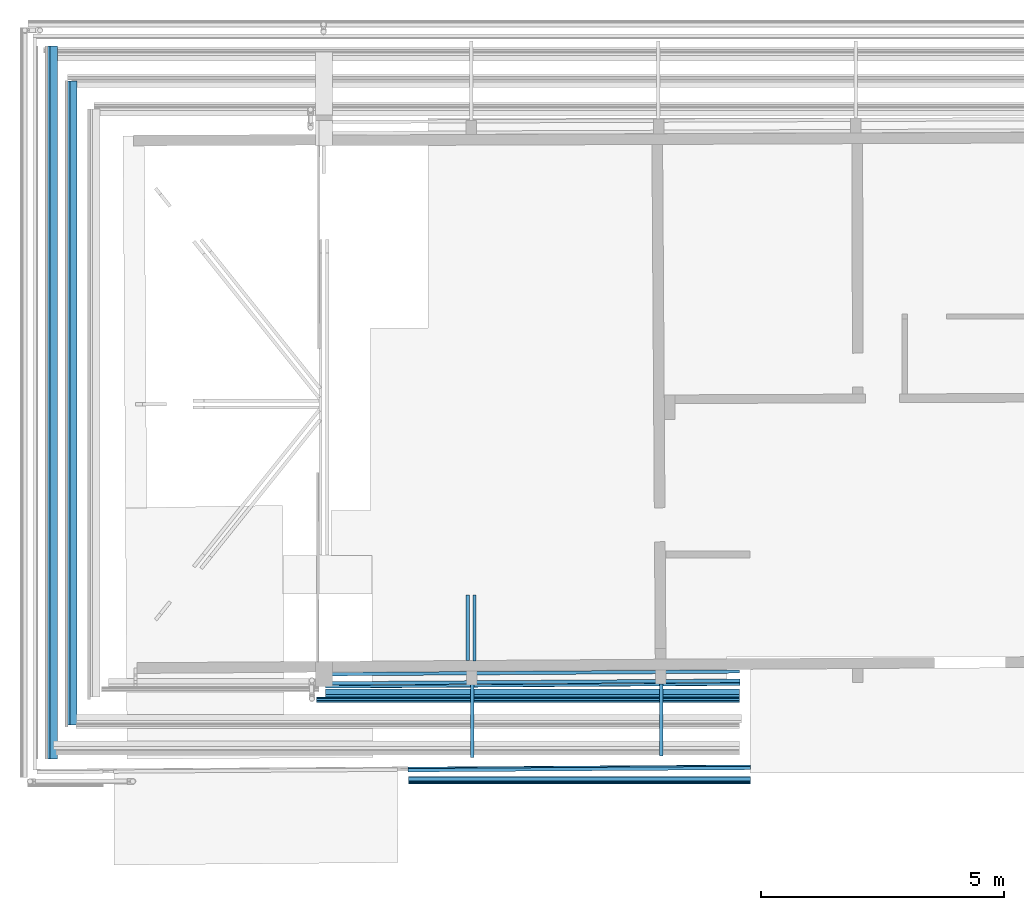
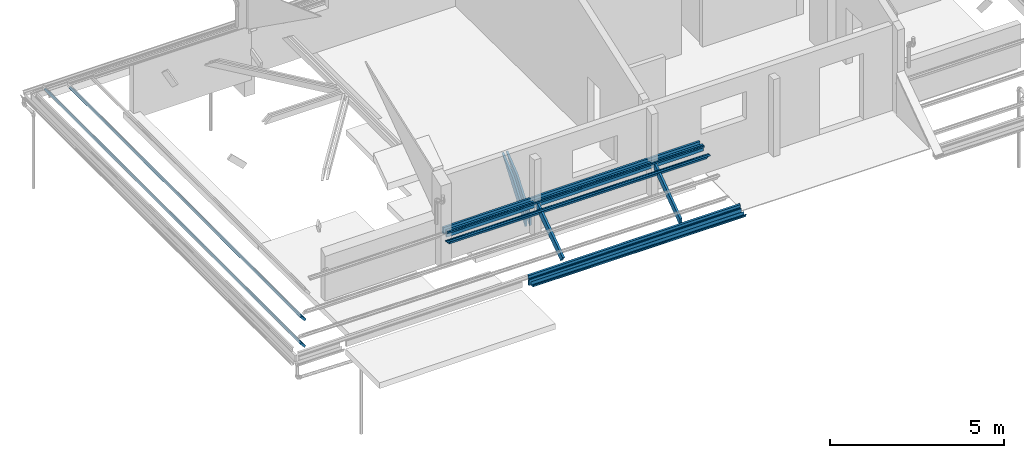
# One storey, part 2 of 15: 14 beams.
"""IFC2X3 building model written with IfcOpenShell, lengths in centimetres."""

from ifc_helpers import new_model, entity, si_unit, converted_unit, direction, frame, frame_2d, origin, origin_2d_with_axis, place, context, subcontext, project, spatial, polyline, circle_curve, parameter, trimmed, segment, composite_curve, rectangle, outline, extrude, clip, halfspace, material, type_object, element, save


model = new_model("IFC2X3")

# Units and contexts
model_context = context("Model", 3, precision=0.001, world=frame((0.0, 0.0, 13090.0)), true_north=direction((6.123233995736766e-17, 1.0)))
body_context = subcontext(model_context, "Body", "Model", "MODEL_VIEW")
ifc_project = project(units=[si_unit("LENGTHUNIT", "METRE", prefix="CENTI"), si_unit("AREAUNIT", "SQUARE_METRE"), si_unit("VOLUMEUNIT", "CUBIC_METRE"), converted_unit("PLANEANGLEUNIT", "DEGREE", entity("IfcPlaneAngleMeasure", 0.017453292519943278), si_unit("PLANEANGLEUNIT", "RADIAN"), dimensions=[0, 0, 0, 0, 0, 0, 0])], contexts=[model_context])

# Site, building, storey
site_placement = place(None, origin())
site = spatial("IfcSite", under=ifc_project, at=site_placement, Name="Default", CompositionType="ELEMENT")
building_placement = place(site_placement, origin())
building = spatial("IfcBuilding", under=site, at=building_placement, Name="e 39 logements et 22 maisons relais", CompositionType="ELEMENT")
storey_placement = place(building_placement, frame((0.0, 0.0, 340.0)))
storey = spatial("IfcBuildingStorey", under=building, at=storey_placement, Name="R+1", CompositionType="ELEMENT", Elevation=339.99999999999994)

# Beams
ifc_material_1 = material(Name="Bois - Bois de construction de dimensions courantes")
beam_type_1 = type_object("IfcBeamType", Name="Poutre - Bois de construction de dimensions courantes:70 220", PredefinedType="BEAM")
beam_1_placement = place(storey_placement, frame((-1479.1192370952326, 514.0076677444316, 22.61963022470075), z_axis=(0.0, 0.0, 1.0), x_axis=(0.0, -1.0, 0.0)))
element("IfcBeam", 1, at=beam_1_placement, inside=storey, type_object=beam_type_1, material=ifc_material_1, Name="Poutre - Bois de construction de dimensions courantes:70 220", ObjectType="Poutre - Bois de construction de dimensions courantes:70 220", context=body_context, shape_type="SweptSolid", body=[
    extrude(rectangle(XDim=21.99999999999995, YDim=7.00000000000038, at=frame_2d((-2.042810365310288e-14, 1.8207657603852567e-14), x_axis=(1.0, 0.0))), frame((-201.23187707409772, 7.360436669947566, -8.174593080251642), z_axis=(1.0, 0.0, 0.0), x_axis=(0.0, -0.6691306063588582, 0.7431448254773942)), (0.0, 0.0, 1.0), 1469.0764847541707),
])
beam_2_placement = place(storey_placement, frame((-1438.4556424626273, 514.0076677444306, 59.056637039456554), z_axis=(0.0, 0.0, 1.0), x_axis=(0.0, -1.0, 0.0)))
element("IfcBeam", 2, at=beam_2_placement, inside=storey, type_object=beam_type_1, material=ifc_material_1, Name="Poutre - Bois de construction de dimensions courantes:70 220", ObjectType="Poutre - Bois de construction de dimensions courantes:70 220", context=body_context, shape_type="SweptSolid", body=[
    extrude(rectangle(XDim=21.999999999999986, YDim=7.000000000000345, at=origin_2d_with_axis()), frame((-128.41320221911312, 7.360436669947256, -8.174593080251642), z_axis=(1.0, 0.0, 0.0), x_axis=(0.0, -0.669130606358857, 0.7431448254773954)), (0.0, 0.0, 1.0), 1326.7871200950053),
])
beam_3_placement = place(storey_placement, frame((-607.2132875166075, -811.2523805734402, 57.720199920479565), z_axis=(0.0, -0.5726590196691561, 0.8197936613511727), x_axis=(0.0, 0.8197936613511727, 0.5726590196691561)))
element("IfcBeam", 3, at=beam_3_placement, inside=storey, type_object=beam_type_1, material=ifc_material_1, Name="Poutre - Bois de construction de dimensions courantes:70 220", ObjectType="Poutre - Bois de construction de dimensions courantes:70 220", context=body_context, shape_type="SweptSolid", body=[
    extrude(rectangle(XDim=21.999999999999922, YDim=7.000000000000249, at=frame_2d((3.197442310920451e-14, 1.6253665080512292e-13), x_axis=(1.0, 0.0))), frame((25.636345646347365, 0.0, -80.0), z_axis=(1.0, 0.0, 0.0), x_axis=(0.0, 0.0, -1.0)), (0.0, 0.0, 1.0), 183.18659665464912),
])
beam_4_placement = place(storey_placement, frame((-590.1792504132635, -577.2831181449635, 124.00368259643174), z_axis=(0.0, 0.0, 1.0), x_axis=(-0.9999784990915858, -0.006557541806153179, 0.0)))
element("IfcBeam", 4, at=beam_4_placement, inside=storey, type_object=beam_type_1, material=ifc_material_1, Name="Poutre - Bois de construction de dimensions courantes:70 220", ObjectType="Poutre - Bois de construction de dimensions courantes:70 220", context=body_context, shape_type="SweptSolid", body=[
    extrude(rectangle(XDim=22.000000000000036, YDim=7.000000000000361, at=origin_2d_with_axis()), frame((-534.2301434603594, 0.0, -11.0), z_axis=(1.0, 0.0, 0.0), x_axis=(0.0, 0.0, -1.0)), (0.0, 0.0, 1.0), 853.0410065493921),
])
beam_5_placement = place(storey_placement, frame((-590.0554164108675, -596.1669230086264, 124.00368259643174), z_axis=(0.0, 0.0, 1.0), x_axis=(-0.9999784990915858, -0.006557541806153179, 0.0)))
element("IfcBeam", 5, at=beam_5_placement, inside=storey, type_object=beam_type_1, material=ifc_material_1, Name="Poutre - Bois de construction de dimensions courantes:70 220", ObjectType="Poutre - Bois de construction de dimensions courantes:70 220", context=body_context, shape_type="SweptSolid", body=[
    extrude(rectangle(XDim=22.000000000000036, YDim=7.000000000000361, at=origin_2d_with_axis()), frame((-534.2301434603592, 0.0, -11.0), z_axis=(1.0, 0.0, 0.0), x_axis=(0.0, 0.0, -1.0)), (0.0, 0.0, 1.0), 853.0410065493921),
])
beam_type_2 = type_object("IfcBeamType", Name="Poutre - Bois de construction de dimensions courantes:70 200", PredefinedType="BEAM")
beam_6_placement = place(storey_placement, frame((-602.2819705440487, -430.44318260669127, 199.032843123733), z_axis=(1.0, 0.0, 0.0), x_axis=(0.0, -0.5980962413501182, -0.8014242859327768)))
element("IfcBeam", 6, at=beam_6_placement, inside=storey, type_object=beam_type_2, material=ifc_material_1, Name="Poutre - Bois de construction de dimensions courantes:70 200", ObjectType="Poutre - Bois de construction de dimensions courantes:70 200", context=body_context, shape_type="Clipping", body=[
    clip(clip(extrude(rectangle(XDim=20.000000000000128, YDim=7.000000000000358, at=frame_2d((5.417888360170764e-14, -2.220446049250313e-14), x_axis=(0.0, 1.0))), frame((3.022152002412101, 10.0, 0.0), z_axis=(1.0, 0.0, 0.0), x_axis=(0.0, 0.0, -1.0)), (0.0, 0.0, 1.0), 224.0830836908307), halfspace(frame((262.11905182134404, 45.03969575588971, 313.8906856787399), z_axis=(0.60535828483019, -0.7959531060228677, 0.0), x_axis=(0.0, 0.0, -1.0)), False)), halfspace(frame((-147.81267289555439, 61.16847534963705, -313.8906856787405), z_axis=(-0.26330614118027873, -0.9647123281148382, 0.0), x_axis=(0.0, 0.0, 1.0)), False)),
])
beam_7_placement = place(storey_placement, frame((-616.2819705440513, -430.44318260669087, 199.03284312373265), z_axis=(1.0, 0.0, 0.0), x_axis=(0.0, -0.5980962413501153, -0.8014242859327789)))
element("IfcBeam", 7, at=beam_7_placement, inside=storey, type_object=beam_type_2, material=ifc_material_1, Name="Poutre - Bois de construction de dimensions courantes:70 200", ObjectType="Poutre - Bois de construction de dimensions courantes:70 200", context=body_context, shape_type="Clipping", body=[
    clip(clip(extrude(rectangle(XDim=20.000000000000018, YDim=7.00000000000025, at=frame_2d((-5.417888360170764e-14, 3.197442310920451e-14), x_axis=(0.0, 1.0))), frame((3.0221520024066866, 10.0, 0.0), z_axis=(1.0, 0.0, 0.0), x_axis=(0.0, 0.0, -1.0)), (0.0, 0.0, 1.0), 222.7859777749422), halfspace(frame((260.6719459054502, 45.039695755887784, 312.59068567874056), z_axis=(0.6053582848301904, -0.7959531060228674, 0.0), x_axis=(0.0, 0.0, -1.0)), False)), halfspace(frame((-146.97542323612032, 60.939958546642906, -312.5906856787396), z_axis=(-0.26330614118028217, -0.9647123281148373, 0.0), x_axis=(0.0, 0.0, 1.0)), False)),
])
beam_8_placement = place(storey_placement, frame((-590.2069629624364, -624.0584799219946, 104.31518770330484), z_axis=(0.0, 0.0, 1.0), x_axis=(-1.0, 0.0, 0.0)))
element("IfcBeam", 8, at=beam_8_placement, inside=storey, type_object=beam_type_2, material=ifc_material_1, Name="Poutre - Bois de construction de dimensions courantes:70 200", ObjectType="Poutre - Bois de construction de dimensions courantes:70 200", context=body_context, shape_type="SweptSolid", body=[
    extrude(rectangle(XDim=20.000000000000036, YDim=7.000000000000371, at=frame_2d((3.1308289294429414e-14, -4.440892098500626e-14), x_axis=(0.0, 1.0))), frame((-534.2301434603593, -5.807029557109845, -8.141155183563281), z_axis=(1.0, 0.0, 0.0), x_axis=(0.0, -0.8141155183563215, 0.5807029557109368)), (0.0, 0.0, 1.0), 853.041006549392),
])
beam_9_placement = place(storey_placement, frame((-570.8969736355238, -776.1639952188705, 14.0166710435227), z_axis=(0.0, 0.0, 1.0), x_axis=(-0.9999784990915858, -0.006557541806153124, 0.0)))
element("IfcBeam", 9, at=beam_9_placement, inside=storey, type_object=beam_type_2, material=ifc_material_1, Name="Poutre - Bois de construction de dimensions courantes:70 200", ObjectType="Poutre - Bois de construction de dimensions courantes:70 200", context=body_context, shape_type="SweptSolid", body=[
    extrude(rectangle(XDim=20.0, YDim=7.000000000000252, at=frame_2d((0.0, 5.417888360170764e-14), x_axis=(1.0, 0.0))), frame((-536.6670283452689, 0.0, -22.0), z_axis=(1.0, 0.0, 0.0), x_axis=(0.0, 0.0, -1.0)), (0.0, 0.0, 1.0), 705.0279453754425),
])
beam_10_placement = place(storey_placement, frame((-218.01328751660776, -810.3592689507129, 54.38807245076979), z_axis=(0.0, -0.5868791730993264, 0.8096745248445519), x_axis=(0.0, 0.8096745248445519, 0.5868791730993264)))
element("IfcBeam", 10, at=beam_10_placement, inside=storey, type_object=beam_type_2, material=ifc_material_1, Name="Poutre - Bois de construction de dimensions courantes:70 200", ObjectType="Poutre - Bois de construction de dimensions courantes:70 200", context=body_context, shape_type="Clipping", body=[
    clip(clip(extrude(rectangle(XDim=20.00000000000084, YDim=7.0000000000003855, at=frame_2d((-1.9539925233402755e-13, -1.354472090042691e-14), x_axis=(1.0, 0.0))), frame((12.202538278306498, 0.0, -79.0), z_axis=(1.0, 0.0, 0.0), x_axis=(0.0, 0.0, -1.0)), (0.0, 0.0, 1.0), 197.89190449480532), halfspace(frame((33.29267112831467, 211.41323505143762, -59.90347710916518), z_axis=(-0.8096745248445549, 0.0, 0.5868791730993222), x_axis=(0.0, -1.0, 0.0)), False)), halfspace(frame((186.90337999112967, 211.4132350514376, -102.19931340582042), z_axis=(0.8197936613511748, 0.0, -0.572659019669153), x_axis=(0.0, -1.0, 0.0)), False)),
])
ifc_material_2 = material(Name="neuf")
beam_type_3 = type_object("IfcBeamType", Name="gouttiere ALU G400:gouttiere ALU G400", PredefinedType="BEAM")
beam_11_placement = place(storey_placement, frame((-570.930260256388, -790.1544487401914, 31.582453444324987), z_axis=(0.0, 0.0, 1.0), x_axis=(-1.0, 0.0, 0.0)))
element("IfcBeam", 11, at=beam_11_placement, inside=storey, type_object=beam_type_3, material=ifc_material_2, Name="gouttiere ALU G400:gouttiere ALU G400", ObjectType="gouttiere ALU G400:gouttiere ALU G400", context=body_context, shape_type="SweptSolid", body=[
    extrude(outline(composite_curve([segment(polyline([(-6.028675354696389, -10.418144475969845), (4.915125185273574, -10.418144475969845)]), True, "CONTINUOUS"), segment(trimmed(circle_curve(frame_2d((4.482502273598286, -7.967211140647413), x_axis=(0.17382635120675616, -0.9847763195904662)), 2.4888223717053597), [parameter(0.0)], [parameter(79.98963375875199)], True, "PARAMETER"), True, "CONTINUOUS"), segment(polyline([(6.971324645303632, -7.967211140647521), (6.971324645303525, -1.4672111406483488)]), True, "CONTINUOUS"), segment(trimmed(circle_curve(frame_2d((5.604531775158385, -1.4672111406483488), x_axis=(1.0, 0.0)), 1.366792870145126), [parameter(0.0)], [parameter(80.76228289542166)], True, "PARAMETER"), True, "CONTINUOUS"), segment(polyline([(5.8239443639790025, -0.11814447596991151), (4.738394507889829, -0.11814447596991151)]), True, "CONTINUOUS"), segment(trimmed(circle_curve(frame_2d((4.7383945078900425, 0.5488704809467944), x_axis=(0.0, -1.0)), 0.6670149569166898), [parameter(270.00000000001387)], [parameter(0.0)], True, "PARAMETER"), False, "CONTINUOUS"), segment(trimmed(circle_curve(frame_2d((2.6511667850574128, 0.5488704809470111), x_axis=(1.0, 0.0)), 1.4202127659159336), [parameter(0.0)], [parameter(75.70274320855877)], True, "PARAMETER"), True, "CONTINUOUS"), segment(polyline([(3.001892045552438, 1.925095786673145), (-3.0280800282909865, 2.868739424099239)]), True, "CONTINUOUS"), segment(trimmed(circle_curve(frame_2d((-2.8287143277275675, 3.6330360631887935), x_axis=(-0.2524028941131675, -0.9676222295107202)), 0.7898708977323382), [parameter(284.61974875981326)], [parameter(0.0)], True, "PARAMETER"), False, "CONTINUOUS"), segment(polyline([(-3.61858522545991, 3.633036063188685), (-3.61858522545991, 4.3921591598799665)]), True, "CONTINUOUS"), segment(trimmed(circle_curve(frame_2d((-4.410064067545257, 4.392159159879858), x_axis=(1.0, 0.0)), 0.7914788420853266), [parameter(0.0)], [parameter(89.9999999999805)], True, "PARAMETER"), True, "CONTINUOUS"), segment(polyline([(-4.410064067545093, 5.1836380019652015), (-4.596964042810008, 5.1836380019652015)]), True, "CONTINUOUS"), segment(trimmed(circle_curve(frame_2d((-4.596964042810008, 4.455817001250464), x_axis=(0.0, 1.0)), 0.7278210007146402), [parameter(0.0)], [parameter(90.00000000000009)], True, "PARAMETER"), True, "CONTINUOUS"), segment(polyline([(-5.324785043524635, 4.455817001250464), (-5.509735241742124, 2.716322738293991)]), True, "CONTINUOUS"), segment(polyline([(-5.509735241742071, 2.7163227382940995), (-5.308633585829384, 2.7163227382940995)]), True, "CONTINUOUS"), segment(polyline([(-5.308633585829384, 2.7163227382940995), (-5.126213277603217, 4.451936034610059)]), True, "CONTINUOUS"), segment(trimmed(circle_curve(frame_2d((-4.59629378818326, 4.451936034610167), x_axis=(-1.0, 0.0)), 0.5299194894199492), [parameter(269.99999999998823)], [parameter(0.0)], True, "PARAMETER"), False, "CONTINUOUS"), segment(polyline([(-4.59629378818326, 4.98185552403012), (-4.409626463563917, 4.98185552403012)]), True, "CONTINUOUS"), segment(trimmed(circle_curve(frame_2d((-4.409626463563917, 4.391273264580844), x_axis=(0.0, 1.0)), 0.5905822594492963), [parameter(269.9999999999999)], [parameter(0.0)], True, "PARAMETER"), False, "CONTINUOUS"), segment(polyline([(-3.8190442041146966, 4.391273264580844), (-3.8190442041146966, 3.6331166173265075)]), True, "CONTINUOUS"), segment(trimmed(circle_curve(frame_2d((-2.828956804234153, 3.6331166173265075), x_axis=(-1.0, 0.0)), 0.99008739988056), [parameter(0.0)], [parameter(75.99999999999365)], True, "PARAMETER"), True, "CONTINUOUS"), segment(polyline([(-3.0684806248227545, 2.6724390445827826), (2.96129470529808, 1.7290144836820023)]), True, "CONTINUOUS"), segment(trimmed(circle_curve(frame_2d((2.6511667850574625, 0.5488704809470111), x_axis=(0.25415888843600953, 0.9671624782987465)), 1.2202127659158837), [parameter(284.72375106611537)], [parameter(0.0)], True, "PARAMETER"), False, "CONTINUOUS"), segment(trimmed(circle_curve(frame_2d((4.738394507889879, 0.548870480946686), x_axis=(-1.0, 0.0)), 0.8670149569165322), [parameter(0.0)], [parameter(90.00000000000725)], True, "PARAMETER"), True, "CONTINUOUS"), segment(polyline([(4.738394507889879, -0.3181444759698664), (5.807143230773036, -0.3181444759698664)]), True, "CONTINUOUS"), segment(trimmed(circle_curve(frame_2d((5.604531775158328, -1.4672111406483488), x_axis=(0.17364817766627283, 0.9848077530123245)), 1.166792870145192), [parameter(279.9999999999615)], [parameter(0.0)], True, "PARAMETER"), False, "CONTINUOUS"), segment(polyline([(6.771324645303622, -1.4672111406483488), (6.771324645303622, -7.967211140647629)]), True, "CONTINUOUS"), segment(trimmed(circle_curve(frame_2d((4.482502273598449, -7.967211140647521), x_axis=(1.0, 0.0)), 2.2888223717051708), [parameter(280.43973077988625)], [parameter(0.0)], True, "PARAMETER"), False, "CONTINUOUS"), segment(polyline([(4.897239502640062, -10.21814447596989), (-6.028675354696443, -10.21814447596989)]), True, "CONTINUOUS"), segment(polyline([(-6.028675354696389, -10.218144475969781), (-6.028675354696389, -10.418144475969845)]), True, "CONTINUOUS")], self_intersect=False)), frame((-537.1221576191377, 10.218144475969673, -37.028675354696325), z_axis=(1.0, 0.0, 0.0), x_axis=(0.0, 0.0, -1.0)), (0.0, 0.0, 1.0), 704.1738679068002),
])
beam_type_4 = type_object("IfcBeamType", Name="panne z:panne z", PredefinedType="BEAM")
beam_12_placement = place(storey_placement, frame((-570.9302602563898, -633.0811791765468, 113.51652560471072), z_axis=(0.0, 0.0, 1.0), x_axis=(-1.0, 0.0, 0.0)))
element("IfcBeam", 12, at=beam_12_placement, inside=storey, type_object=beam_type_4, material=ifc_material_2, Name="panne z:panne z", ObjectType="panne z:panne z", context=body_context, shape_type="SweptSolid", body=[
    extrude(outline(composite_curve([segment(polyline([(-4.599999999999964, -3.0), (-0.29999999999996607, -3.0)]), True, "CONTINUOUS"), segment(trimmed(circle_curve(frame_2d((-0.29999999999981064, -2.600000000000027), x_axis=(0.0, -1.0)), 0.399999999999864), [parameter(0.0)], [parameter(90.00000000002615)], True, "PARAMETER"), True, "CONTINUOUS"), segment(polyline([(0.10000000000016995, -2.599999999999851), (0.10000000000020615, 2.6000000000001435)]), True, "CONTINUOUS"), segment(trimmed(circle_curve(frame_2d((0.3000000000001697, 2.6000000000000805), x_axis=(-1.0, 0.0)), 0.20000000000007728), [parameter(270.00000000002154)], [parameter(0.0)], True, "PARAMETER"), False, "CONTINUOUS"), segment(polyline([(0.30000000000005, 2.8000000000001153), (4.6000000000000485, 2.8000000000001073)]), True, "CONTINUOUS"), segment(trimmed(circle_curve(frame_2d((4.600000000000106, 2.600000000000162), x_axis=(0.0, 1.0)), 0.20000000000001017), [parameter(270.00000000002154)], [parameter(0.0)], True, "PARAMETER"), False, "CONTINUOUS"), segment(polyline([(4.800000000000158, 2.600000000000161), (4.800000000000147, 1.0)]), True, "CONTINUOUS"), segment(polyline([(4.800000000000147, 1.0), (5.0, 1.0)]), True, "CONTINUOUS"), segment(polyline([(5.0, 1.0), (5.0, 2.6000000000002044)]), True, "CONTINUOUS"), segment(trimmed(circle_curve(frame_2d((4.600000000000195, 2.6000000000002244), x_axis=(1.0, 0.0)), 0.3999999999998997), [parameter(0.0)], [parameter(90.00000000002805)], True, "PARAMETER"), True, "CONTINUOUS"), segment(polyline([(4.6000000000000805, 3.0), (0.30000000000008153, 3.0)]), True, "CONTINUOUS"), segment(trimmed(circle_curve(frame_2d((0.30000000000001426, 2.6000000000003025), x_axis=(0.0, 1.0)), 0.399999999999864), [parameter(0.0)], [parameter(90.00000000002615)], True, "PARAMETER"), True, "CONTINUOUS"), segment(polyline([(-0.0999999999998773, 2.600000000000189), (-0.09999999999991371, -2.599999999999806)]), True, "CONTINUOUS"), segment(trimmed(circle_curve(frame_2d((-0.29999999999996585, -2.599999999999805), x_axis=(1.0, 0.0)), 0.20000000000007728), [parameter(270.00000000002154)], [parameter(0.0)], True, "PARAMETER"), False, "CONTINUOUS"), segment(polyline([(-0.299999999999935, -2.799999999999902), (-4.599999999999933, -2.799999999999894)]), True, "CONTINUOUS"), segment(trimmed(circle_curve(frame_2d((-4.599999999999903, -2.599999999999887), x_axis=(0.0, -1.0)), 0.20000000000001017), [parameter(270.00000000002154)], [parameter(0.0)], True, "PARAMETER"), False, "CONTINUOUS"), segment(polyline([(-4.799999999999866, -2.5999999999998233), (-4.799999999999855, -1.0)]), True, "CONTINUOUS"), segment(polyline([(-4.799999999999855, -1.0), (-5.0, -1.0)]), True, "CONTINUOUS"), segment(polyline([(-5.0, -1.0), (-5.0, -2.599999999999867)]), True, "CONTINUOUS"), segment(trimmed(circle_curve(frame_2d((-4.599999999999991, -2.5999999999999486), x_axis=(-1.0, 0.0)), 0.3999999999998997), [parameter(0.0)], [parameter(90.00000000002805)], True, "PARAMETER"), True, "CONTINUOUS")], self_intersect=False)), frame((-514.9650894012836, -1.5385808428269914, -2.1973211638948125), z_axis=(1.0, 0.0, 0.0), x_axis=(0.0, -0.8191520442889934, 0.5735764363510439)), (0.0, 0.0, 1.0), 871.6958014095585),
])
beam_type_5 = type_object("IfcBeamType", Name="panne z pente sup 35 deg2:panne z pente sup 35 deg2", PredefinedType="BEAM")
beam_13_placement = place(storey_placement, frame((-570.9132811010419, -773.6772226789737, 34.301262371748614), z_axis=(0.0, 0.0, 1.0), x_axis=(-0.9999784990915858, -0.006557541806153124, 0.0)))
element("IfcBeam", 13, at=beam_13_placement, inside=storey, type_object=beam_type_5, material=ifc_material_2, Name="panne z pente sup 35 deg2:panne z pente sup 35 deg2", ObjectType="panne z pente sup 35 deg2:panne z pente sup 35 deg2", context=body_context, shape_type="SweptSolid", body=[
    extrude(outline(composite_curve([segment(polyline([(-6.464903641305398, -4.455965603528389), (-4.864903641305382, -4.455965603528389)]), True, "CONTINUOUS"), segment(polyline([(-4.864903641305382, -4.455965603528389), (-4.864903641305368, -4.255965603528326)]), True, "CONTINUOUS"), segment(polyline([(-4.864903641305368, -4.255965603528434), (-6.4649036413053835, -4.255965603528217)]), True, "CONTINUOUS"), segment(trimmed(circle_curve(frame_2d((-6.464903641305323, -4.151677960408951), x_axis=(0.0, -1.0)), 0.10428764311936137), [parameter(240.0000000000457)], [parameter(0.0)], True, "PARAMETER"), False, "CONTINUOUS"), segment(polyline([(-6.555219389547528, -4.0995341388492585), (-4.0171550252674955, -0.4748025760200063)]), True, "CONTINUOUS"), segment(trimmed(circle_curve(frame_2d((-3.771545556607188, -0.6467801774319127), x_axis=(-0.8191520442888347, 0.5735764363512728)), 0.29983379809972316), [parameter(317.7167105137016)], [parameter(0.0)], True, "PARAMETER"), False, "CONTINUOUS"), segment(polyline([(-3.837548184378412, -0.35430118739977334), (5.383024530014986, -0.3543011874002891)]), True, "CONTINUOUS"), segment(trimmed(circle_curve(frame_2d((5.38302453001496, 0.04569881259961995), x_axis=(0.0, -1.0)), 0.40000000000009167), [parameter(0.0)], [parameter(89.99999999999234)], True, "PARAMETER"), True, "CONTINUOUS"), segment(polyline([(5.783024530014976, 0.04569881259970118), (5.783024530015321, 4.345698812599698)]), True, "CONTINUOUS"), segment(trimmed(circle_curve(frame_2d((5.383024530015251, 4.345698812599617), x_axis=(1.0, 0.0)), 0.4000000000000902), [parameter(0.0)], [parameter(89.99999999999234)], True, "PARAMETER"), True, "CONTINUOUS"), segment(polyline([(5.383024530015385, 4.745698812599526), (3.783024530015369, 4.745698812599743)]), True, "CONTINUOUS"), segment(polyline([(3.783024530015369, 4.745698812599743), (3.7830245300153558, 4.545698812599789)]), True, "CONTINUOUS"), segment(polyline([(3.7830245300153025, 4.545698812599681), (5.383024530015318, 4.545698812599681)]), True, "CONTINUOUS"), segment(trimmed(circle_curve(frame_2d((5.383024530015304, 4.345698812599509), x_axis=(0.0, 1.0)), 0.2000000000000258), [parameter(270.0000000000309)], [parameter(0.0)], True, "PARAMETER"), False, "CONTINUOUS"), segment(polyline([(5.583024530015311, 4.345698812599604), (5.583024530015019, 0.04569881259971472)]), True, "CONTINUOUS"), segment(trimmed(circle_curve(frame_2d((5.383024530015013, 0.04569881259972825), x_axis=(1.0, 0.0)), 0.2000000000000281), [parameter(270.0000000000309)], [parameter(0.0)], True, "PARAMETER"), False, "CONTINUOUS"), segment(polyline([(5.383024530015, -0.1543011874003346), (-3.856975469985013, -0.15430118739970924)]), True, "CONTINUOUS"), segment(trimmed(circle_curve(frame_2d((-3.7715455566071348, -0.6467801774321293), x_axis=(-0.17091664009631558, 0.9852854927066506)), 0.4998337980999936), [parameter(0.0)], [parameter(45.158881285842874)], True, "PARAMETER"), True, "CONTINUOUS"), segment(polyline([(-4.180985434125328, -0.36008728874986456), (-6.722747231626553, -3.9900993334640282)]), True, "CONTINUOUS"), segment(trimmed(circle_curve(frame_2d((-6.464903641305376, -4.151677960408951), x_axis=(-0.8473679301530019, 0.5310062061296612)), 0.30428764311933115), [parameter(0.0)], [parameter(122.07346536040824)], True, "PARAMETER"), True, "CONTINUOUS")], self_intersect=False)), frame((-536.667028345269, 0.2543011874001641, -25.899409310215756), z_axis=(1.0, 0.0, 0.0), x_axis=(0.0, 0.0, -1.0)), (0.0, 0.0, 1.0), 705.0279453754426),
])
ifc_material_3 = material(Name="Acier structurel - S235")
beam_type_6 = type_object("IfcBeamType", Name="SHS (EN 10210-2):SHS60x5", PredefinedType="BEAM")
beam_14_placement = place(storey_placement, frame((-590.0090377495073, -603.2393390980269, 124.00368259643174), z_axis=(0.0, 0.0, 1.0), x_axis=(-0.9999784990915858, -0.006557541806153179, 0.0)))
element("IfcBeam", 14, at=beam_14_placement, inside=storey, type_object=beam_type_6, material=ifc_material_3, Name="SHS (EN 10210-2):SHS60x5", ObjectType="SHS (EN 10210-2):SHS60x5", context=body_context, shape_type="SweptSolid", body=[
    extrude(outline(composite_curve([segment(trimmed(circle_curve(frame_2d((-2.2500000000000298, -2.2499999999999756), x_axis=(1.0, 0.0)), 0.75), [parameter(179.99999999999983)], [parameter(269.99999999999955)], True, "PARAMETER"), True, "CONTINUOUS"), segment(polyline([(-2.2500000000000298, -3.0), (2.2500000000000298, -3.0)]), True, "CONTINUOUS"), segment(trimmed(circle_curve(frame_2d((2.2500000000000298, -2.2499999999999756), x_axis=(1.0, 0.0)), 0.75), [parameter(270.0)], [parameter(5.088887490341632e-14)], True, "PARAMETER"), True, "CONTINUOUS"), segment(polyline([(3.0, -2.2499999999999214), (3.0, 2.2500000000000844)]), True, "CONTINUOUS"), segment(trimmed(circle_curve(frame_2d((2.2500000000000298, 2.25000000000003), x_axis=(1.0, 0.0)), 0.75), [parameter(359.99999999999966)], [parameter(89.99999999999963)], True, "PARAMETER"), True, "CONTINUOUS"), segment(polyline([(2.2500000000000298, 3.0), (-2.2500000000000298, 3.0)]), True, "CONTINUOUS"), segment(trimmed(circle_curve(frame_2d((-2.2500000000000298, 2.25000000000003), x_axis=(1.0, 0.0)), 0.75), [parameter(90.00000000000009)], [parameter(180.00000000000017)], True, "PARAMETER"), True, "CONTINUOUS"), segment(polyline([(-3.0, 2.2500000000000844), (-3.0, -2.2499999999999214)]), True, "CONTINUOUS")], self_intersect=False), holes=[composite_curve([segment(polyline([(2.0, -2.499999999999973), (-2.0, -2.499999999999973)]), True, "CONTINUOUS"), segment(trimmed(circle_curve(frame_2d((-2.0, -2.0), x_axis=(1.0, 0.0)), 0.5), [parameter(180.0000000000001)], [parameter(269.9999999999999)], True, "PARAMETER"), False, "CONTINUOUS"), segment(polyline([(-2.5000000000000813, -2.0), (-2.5000000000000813, 2.0)]), True, "CONTINUOUS"), segment(trimmed(circle_curve(frame_2d((-2.0, 2.0), x_axis=(1.0, 0.0)), 0.5), [parameter(90.00000000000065)], [parameter(180.00000000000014)], True, "PARAMETER"), False, "CONTINUOUS"), segment(polyline([(-2.0, 2.5000000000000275), (2.0, 2.5000000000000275)]), True, "CONTINUOUS"), segment(trimmed(circle_curve(frame_2d((2.0, 2.0), x_axis=(1.0, 0.0)), 0.5), [parameter(0.0)], [parameter(90.00000000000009)], True, "PARAMETER"), False, "CONTINUOUS"), segment(polyline([(2.4999999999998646, 2.0), (2.4999999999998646, -2.0)]), True, "CONTINUOUS"), segment(trimmed(circle_curve(frame_2d((2.0, -2.0), x_axis=(1.0, 0.0)), 0.5), [parameter(270.00000000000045)], [parameter(4.579998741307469e-13)], True, "PARAMETER"), False, "CONTINUOUS")], self_intersect=False)]), frame((-534.2401434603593, 0.0, -3.0), z_axis=(1.0, 0.0, 0.0), x_axis=(0.0, -1.0, 0.0)), (0.0, 0.0, 1.0), 853.0610065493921),
])

save(model, "model.ifc")
